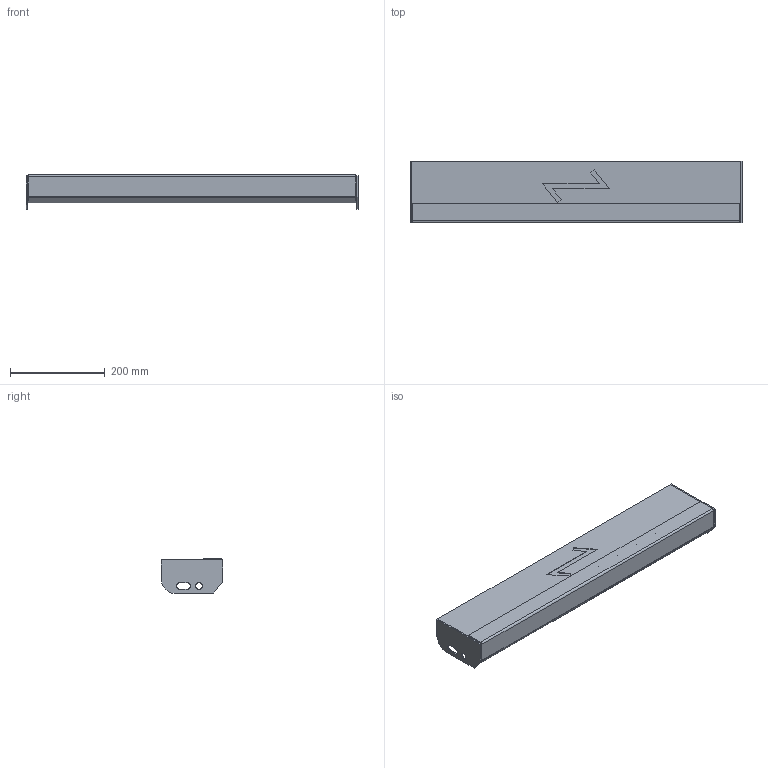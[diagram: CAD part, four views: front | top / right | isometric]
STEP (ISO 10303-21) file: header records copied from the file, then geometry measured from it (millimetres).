
FILE_DESCRIPTION (( 'STEP AP203' ), '1' );
FILE_NAME ('StegTH6-S-nya_steget-700x130.STEP', '2020-03-04T07:41:54', ( '' ), ( '' ), 'SwSTEP 2.0', 'SolidWorks 2019', '' );
FILE_SCHEMA (( 'CONFIG_CONTROL_DESIGN' ));
Length unit declared in the file: millimetre
Products named in the file (5): StegTH6-S-nya_steget-700x130; SW0000038732; SW0000039243; SW0000038694; SW0000039429
Assembly tree (5 placements, depth 3):
  StegTH6-S-nya_steget-700x130
    SW0000039429
      SW0000038732
      SW0000039243
      SW0000038694  x2
Bounding box: 700 x 130 x 72 mm (x, y, z)
Volume: 2021919.7 mm3; surface area: 362164.1 mm2
Topology: 4 solids, 4 shells, 67 faces, 158 edges, 100 vertices
Faces by surface type: plane 51, cylinder 16
Entity records: 2002 total; most frequent: DIRECTION 261, CARTESIAN_POINT 254, ORIENTED_EDGE 238, EDGE_CURVE 119, LINE 99, VECTOR 99, AXIS2_PLACEMENT_3D 81, VERTEX_POINT 74
